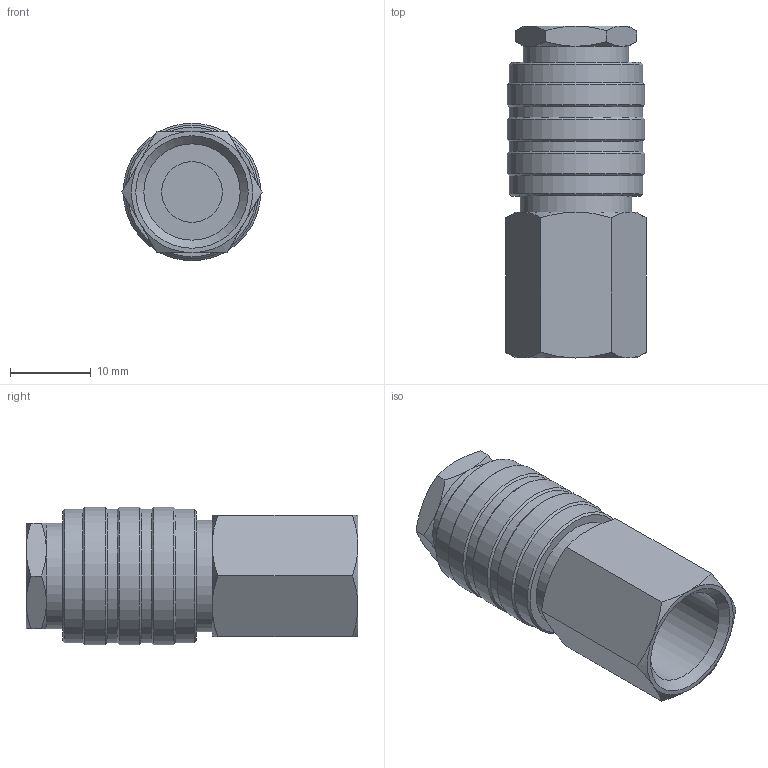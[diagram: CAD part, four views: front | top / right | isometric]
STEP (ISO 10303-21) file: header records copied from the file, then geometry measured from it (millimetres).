
FILE_DESCRIPTION(/* description */ (''),/* implementation_level */ '2;1');
FILE_NAME(/* name */ 'S:\_Tecnico\ArchivioUT\_Disegni3D ingombri\DISEGNI 3D per ingombri\GM\GM200014.stp',/* time_stamp */ '2020-11-26T14:08:43+01:00',/* author */ ('UfficioTecnico'),/* organization */ (''),/* preprocessor_version */ 'ST-DEVELOPER v18',/* originating_system */ 'Autodesk Inventor 2020',/* authorisation */ '');
FILE_SCHEMA (('AUTOMOTIVE_DESIGN { 1 0 10303 214 3 1 1 }'));
Length unit declared in the file: millimetre
Products named in the file (1): GM200014
Bounding box: 17.32 x 41 x 17 mm (x, y, z)
Volume: 5803.1 mm3; surface area: 3551.6 mm2
Topology: 1 solids, 1 shells, 68 faces, 164 edges, 104 vertices
Faces by surface type: cone 35, plane 20, cylinder 13
Full cylindrical faces by diameter (mm): 5 x1, 7.5 x1, 9 x1, 11.89 x1, 13 x1, 13.8 x1, 16.5 x4, 17 x3
Entity records: 1987 total; most frequent: CARTESIAN_POINT 432, DIRECTION 332, ORIENTED_EDGE 326, EDGE_CURVE 163, AXIS2_PLACEMENT_3D 148, VERTEX_POINT 104, CIRCLE 79, EDGE_LOOP 75
